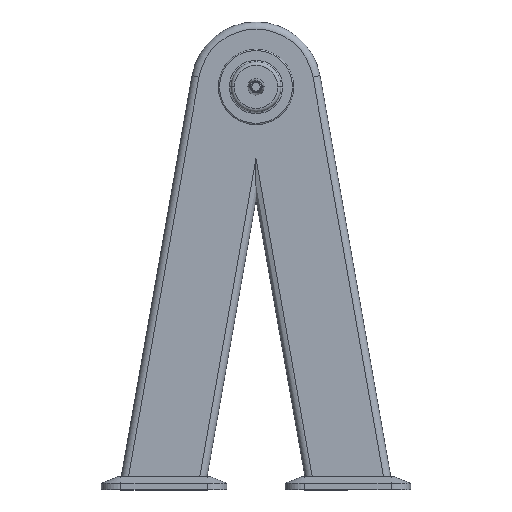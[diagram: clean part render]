
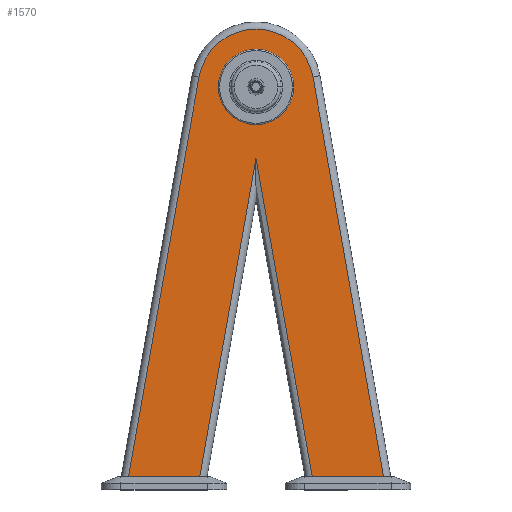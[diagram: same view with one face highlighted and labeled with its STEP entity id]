
A CAD part, top view. The second image highlights one B-rep face of the part: STEP entity #1570.
In plain terms, the highlighted planar face has unit normal (0, 0, 1).
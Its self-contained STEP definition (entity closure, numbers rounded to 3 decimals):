
#72 = DIRECTION ( 'NONE',  ( 0., 0., 1. ) ) ;
#105 = CARTESIAN_POINT ( 'NONE',  ( -10.833, 449.147, 63. ) ) ;
#134 = DIRECTION ( 'NONE',  ( 1., 0., 0. ) ) ;
#142 = DIRECTION ( 'NONE',  ( 0., 0., 1. ) ) ;
#150 = CARTESIAN_POINT ( 'NONE',  ( 0., 620., 63. ) ) ;
#153 = DIRECTION ( 'NONE',  ( -1., 0., 0. ) ) ;
#154 = AXIS2_PLACEMENT_3D ( 'NONE', #2292, #1003, #2520 ) ;
#159 = CARTESIAN_POINT ( 'NONE',  ( 0., 20., 63. ) ) ;
#185 = LINE ( 'NONE', #2569, #1830 ) ;
#199 = CARTESIAN_POINT ( 'NONE',  ( 92.615, -14.664, 63. ) ) ;
#206 = EDGE_CURVE ( 'NONE', #1232, #1892, #981, .T. ) ;
#229 = ORIENTED_EDGE ( 'NONE', *, *, #631, .T. ) ;
#302 = ORIENTED_EDGE ( 'NONE', *, *, #1133, .F. ) ;
#336 = CIRCLE ( 'NONE', #2047, 58. ) ;
#349 = EDGE_CURVE ( 'NONE', #1966, #1232, #1713, .T. ) ;
#369 = CARTESIAN_POINT ( 'NONE',  ( 0., 20., 63. ) ) ;
#399 = LINE ( 'NONE', #159, #2052 ) ;
#401 = CARTESIAN_POINT ( 'NONE',  ( 0., 620., 63. ) ) ;
#423 = VERTEX_POINT ( 'NONE', #2702 ) ;
#493 = EDGE_CURVE ( 'NONE', #1966, #561, #1317, .T. ) ;
#498 = AXIS2_PLACEMENT_3D ( 'NONE', #1367, #72, #1580 ) ;
#561 = VERTEX_POINT ( 'NONE', #2327 ) ;
#612 = DIRECTION ( 'NONE',  ( 1., 0., 0. ) ) ;
#631 = EDGE_CURVE ( 'NONE', #1021, #561, #2772, .T. ) ;
#689 = DIRECTION ( 'NONE',  ( -0.174, 0.985, 0. ) ) ;
#741 = VECTOR ( 'NONE', #153, 1000. ) ;
#765 = EDGE_LOOP ( 'NONE', ( #1868, #1108, #229, #1200, #2551, #2651, #2450 ) ) ;
#801 = CIRCLE ( 'NONE', #498, 58. ) ;
#832 = FACE_BOUND ( 'NONE', #1635, .T. ) ;
#860 = CARTESIAN_POINT ( 'NONE',  ( 87.648, 635.455, 63. ) ) ;
#928 = VERTEX_POINT ( 'NONE', #1189 ) ;
#929 = EDGE_CURVE ( 'NONE', #1298, #1021, #2469, .T. ) ;
#943 = CARTESIAN_POINT ( 'NONE',  ( 87.648, 635.455, 63. ) ) ;
#981 = CIRCLE ( 'NONE', #1399, 89. ) ;
#1003 = DIRECTION ( 'NONE',  ( 0., 0., 1. ) ) ;
#1021 = VERTEX_POINT ( 'NONE', #1423 ) ;
#1082 = EDGE_CURVE ( 'NONE', #1298, #928, #399, .T. ) ;
#1108 = ORIENTED_EDGE ( 'NONE', *, *, #929, .T. ) ;
#1133 = EDGE_CURVE ( 'NONE', #423, #2454, #336, .T. ) ;
#1157 = VECTOR ( 'NONE', #689, 1000. ) ;
#1189 = CARTESIAN_POINT ( 'NONE',  ( -196.169, 20., 63. ) ) ;
#1200 = ORIENTED_EDGE ( 'NONE', *, *, #493, .F. ) ;
#1232 = VERTEX_POINT ( 'NONE', #860 ) ;
#1269 = DIRECTION ( 'NONE',  ( -0.174, -0.985, 0. ) ) ;
#1298 = VERTEX_POINT ( 'NONE', #1745 ) ;
#1317 = LINE ( 'NONE', #369, #741 ) ;
#1365 = EDGE_CURVE ( 'NONE', #2454, #423, #801, .T. ) ;
#1367 = CARTESIAN_POINT ( 'NONE',  ( 0., 620., 63. ) ) ;
#1383 = VECTOR ( 'NONE', #2260, 1000. ) ;
#1399 = AXIS2_PLACEMENT_3D ( 'NONE', #150, #142, #134 ) ;
#1423 = CARTESIAN_POINT ( 'NONE',  ( 0., 510.583, 63. ) ) ;
#1552 = CARTESIAN_POINT ( 'NONE',  ( -87.648, 635.455, 63. ) ) ;
#1570 = ADVANCED_FACE ( 'NONE', ( #832, #1984 ), #1640, .T. ) ;
#1580 = DIRECTION ( 'NONE',  ( 1., 0., 0. ) ) ;
#1635 = EDGE_LOOP ( 'NONE', ( #2270, #302 ) ) ;
#1640 = PLANE ( 'NONE',  #154 ) ;
#1713 = LINE ( 'NONE', #943, #1157 ) ;
#1745 = CARTESIAN_POINT ( 'NONE',  ( -86.503, 20., 63. ) ) ;
#1794 = CARTESIAN_POINT ( 'NONE',  ( 196.169, 20., 63. ) ) ;
#1830 = VECTOR ( 'NONE', #1269, 1000. ) ;
#1868 = ORIENTED_EDGE ( 'NONE', *, *, #1082, .F. ) ;
#1892 = VERTEX_POINT ( 'NONE', #1552 ) ;
#1903 = DIRECTION ( 'NONE',  ( 0., 0., 1. ) ) ;
#1916 = DIRECTION ( 'NONE',  ( 0.174, -0.985, 0. ) ) ;
#1966 = VERTEX_POINT ( 'NONE', #1794 ) ;
#1984 = FACE_OUTER_BOUND ( 'NONE', #765, .T. ) ;
#2047 = AXIS2_PLACEMENT_3D ( 'NONE', #401, #1903, #612 ) ;
#2052 = VECTOR ( 'NONE', #2745, 1000. ) ;
#2120 = VECTOR ( 'NONE', #1916, 1000. ) ;
#2260 = DIRECTION ( 'NONE',  ( 0.174, 0.985, 0. ) ) ;
#2270 = ORIENTED_EDGE ( 'NONE', *, *, #1365, .F. ) ;
#2292 = CARTESIAN_POINT ( 'NONE',  ( 0., 620., 63. ) ) ;
#2327 = CARTESIAN_POINT ( 'NONE',  ( 86.503, 20., 63. ) ) ;
#2425 = CARTESIAN_POINT ( 'NONE',  ( -58., 620., 63. ) ) ;
#2450 = ORIENTED_EDGE ( 'NONE', *, *, #2723, .T. ) ;
#2454 = VERTEX_POINT ( 'NONE', #2425 ) ;
#2469 = LINE ( 'NONE', #105, #1383 ) ;
#2520 = DIRECTION ( 'NONE',  ( 1., 0., 0. ) ) ;
#2551 = ORIENTED_EDGE ( 'NONE', *, *, #349, .T. ) ;
#2569 = CARTESIAN_POINT ( 'NONE',  ( -201.09, -7.91, 63. ) ) ;
#2651 = ORIENTED_EDGE ( 'NONE', *, *, #206, .T. ) ;
#2702 = CARTESIAN_POINT ( 'NONE',  ( 58., 620., 63. ) ) ;
#2723 = EDGE_CURVE ( 'NONE', #1892, #928, #185, .T. ) ;
#2745 = DIRECTION ( 'NONE',  ( -1., 0., 0. ) ) ;
#2772 = LINE ( 'NONE', #199, #2120 ) ;
